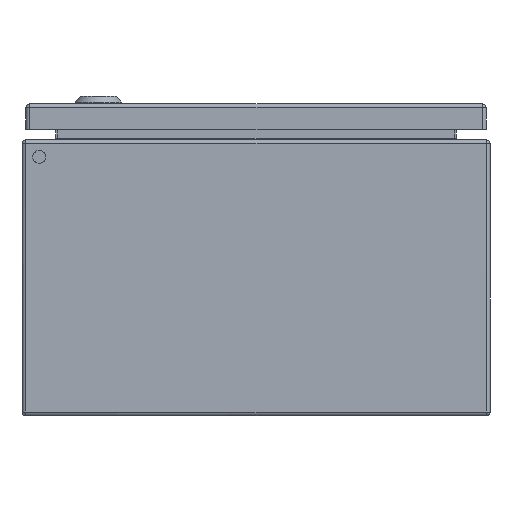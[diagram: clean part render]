
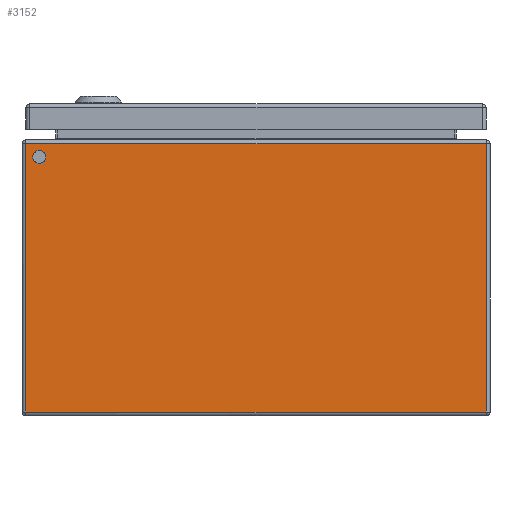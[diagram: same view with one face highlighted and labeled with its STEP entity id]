
A CAD part, front view. The second image highlights one B-rep face of the part: STEP entity #3152.
In plain terms, the highlighted planar face has unit normal (0, -1, 0).
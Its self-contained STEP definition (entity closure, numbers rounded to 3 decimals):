
#52 = AXIS2_PLACEMENT_3D ( 'NONE', #735, #3092, #2819 ) ;
#74 = VECTOR ( 'NONE', #1466, 1000. ) ;
#126 = CARTESIAN_POINT ( 'NONE',  ( 147.5, -250., 174.5 ) ) ;
#332 = LINE ( 'NONE', #6657, #4497 ) ;
#565 = LINE ( 'NONE', #1831, #2880 ) ;
#735 = CARTESIAN_POINT ( 'NONE',  ( -139., -250., 166. ) ) ;
#796 = CIRCLE ( 'NONE', #52, 4.1 ) ;
#852 = LINE ( 'NONE', #6702, #74 ) ;
#1348 = CARTESIAN_POINT ( 'NONE',  ( 147.5, -250., 2.5 ) ) ;
#1373 = DIRECTION ( 'NONE',  ( 0., 1., 0. ) ) ;
#1406 = LINE ( 'NONE', #3758, #5819 ) ;
#1466 = DIRECTION ( 'NONE',  ( 0., 0., 1. ) ) ;
#1831 = CARTESIAN_POINT ( 'NONE',  ( -150., -250., 174.5 ) ) ;
#1874 = PLANE ( 'NONE',  #3617 ) ;
#1963 = DIRECTION ( 'NONE',  ( 0., 0., -1. ) ) ;
#2334 = ORIENTED_EDGE ( 'NONE', *, *, #3100, .T. ) ;
#2345 = VERTEX_POINT ( 'NONE', #3425 ) ;
#2696 = ORIENTED_EDGE ( 'NONE', *, *, #5639, .T. ) ;
#2819 = DIRECTION ( 'NONE',  ( 1., 0., 0. ) ) ;
#2852 = EDGE_CURVE ( 'NONE', #4864, #7557, #565, .T. ) ;
#2880 = VECTOR ( 'NONE', #6449, 1000. ) ;
#3092 = DIRECTION ( 'NONE',  ( 0., -1., 0. ) ) ;
#3100 = EDGE_CURVE ( 'NONE', #2345, #5319, #1406, .T. ) ;
#3152 = ADVANCED_FACE ( 'NONE', ( #6649, #7138 ), #1874, .F. ) ;
#3425 = CARTESIAN_POINT ( 'NONE',  ( -147.5, -250., 2.5 ) ) ;
#3527 = EDGE_CURVE ( 'NONE', #4014, #4014, #796, .T. ) ;
#3617 = AXIS2_PLACEMENT_3D ( 'NONE', #4223, #1373, #6575 ) ;
#3758 = CARTESIAN_POINT ( 'NONE',  ( 150., -250., 2.5 ) ) ;
#3861 = ORIENTED_EDGE ( 'NONE', *, *, #2852, .F. ) ;
#4014 = VERTEX_POINT ( 'NONE', #5656 ) ;
#4223 = CARTESIAN_POINT ( 'NONE',  ( 150., -250., 1.5 ) ) ;
#4497 = VECTOR ( 'NONE', #1963, 1000. ) ;
#4864 = VERTEX_POINT ( 'NONE', #7236 ) ;
#5280 = EDGE_LOOP ( 'NONE', ( #3861, #5510, #2334, #2696 ) ) ;
#5319 = VERTEX_POINT ( 'NONE', #1348 ) ;
#5510 = ORIENTED_EDGE ( 'NONE', *, *, #5967, .T. ) ;
#5639 = EDGE_CURVE ( 'NONE', #5319, #7557, #852, .T. ) ;
#5656 = CARTESIAN_POINT ( 'NONE',  ( -134.9, -250., 166. ) ) ;
#5819 = VECTOR ( 'NONE', #6090, 1000. ) ;
#5967 = EDGE_CURVE ( 'NONE', #4864, #2345, #332, .T. ) ;
#6090 = DIRECTION ( 'NONE',  ( 1., 0., 0. ) ) ;
#6449 = DIRECTION ( 'NONE',  ( 1., 0., 0. ) ) ;
#6518 = EDGE_LOOP ( 'NONE', ( #6888 ) ) ;
#6575 = DIRECTION ( 'NONE',  ( 0., 0., 1. ) ) ;
#6649 = FACE_BOUND ( 'NONE', #6518, .T. ) ;
#6657 = CARTESIAN_POINT ( 'NONE',  ( -147.5, -250., 1.5 ) ) ;
#6702 = CARTESIAN_POINT ( 'NONE',  ( 147.5, -250., 1.5 ) ) ;
#6888 = ORIENTED_EDGE ( 'NONE', *, *, #3527, .F. ) ;
#7138 = FACE_OUTER_BOUND ( 'NONE', #5280, .T. ) ;
#7236 = CARTESIAN_POINT ( 'NONE',  ( -147.5, -250., 174.5 ) ) ;
#7557 = VERTEX_POINT ( 'NONE', #126 ) ;
